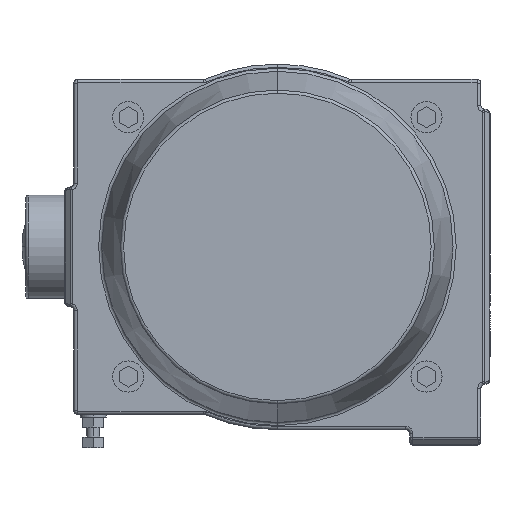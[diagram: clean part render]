
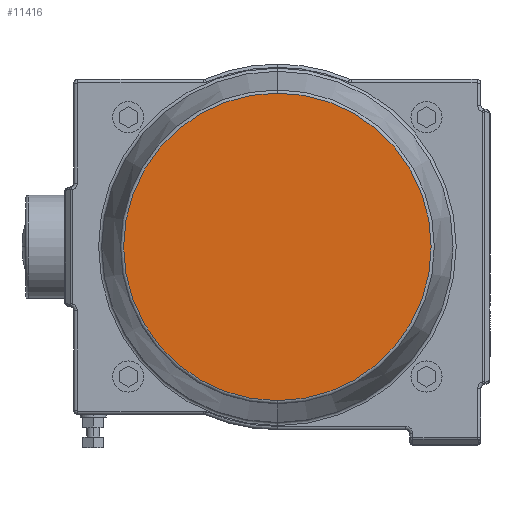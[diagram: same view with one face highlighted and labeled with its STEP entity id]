
A CAD part, left-side view. The second image highlights one B-rep face of the part: STEP entity #11416.
In plain terms, the highlighted planar face has unit normal (-1, 0, 0).
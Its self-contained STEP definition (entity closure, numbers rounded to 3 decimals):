
#883 = CIRCLE ( 'NONE', #3228, 118.626 ) ;
#1899 = DIRECTION ( 'NONE',  ( -1., 0., 0. ) ) ;
#3228 = AXIS2_PLACEMENT_3D ( 'NONE', #14916, #1899, #14844 ) ;
#4159 = DIRECTION ( 'NONE',  ( 0., 0., 1. ) ) ;
#4601 = EDGE_LOOP ( 'NONE', ( #16830, #9811 ) ) ;
#4955 = EDGE_CURVE ( 'NONE', #9961, #12188, #883, .T. ) ;
#5109 = AXIS2_PLACEMENT_3D ( 'NONE', #7636, #12962, #7587 ) ;
#6566 = FACE_OUTER_BOUND ( 'NONE', #4601, .T. ) ;
#7587 = DIRECTION ( 'NONE',  ( 0., 0., 1. ) ) ;
#7636 = CARTESIAN_POINT ( 'NONE',  ( -360.5, 0., 0. ) ) ;
#7891 = DIRECTION ( 'NONE',  ( -1., 0., 0. ) ) ;
#9561 = CARTESIAN_POINT ( 'NONE',  ( -360.5, 0., -118.626 ) ) ;
#9811 = ORIENTED_EDGE ( 'NONE', *, *, #11973, .T. ) ;
#9961 = VERTEX_POINT ( 'NONE', #16514 ) ;
#11416 = ADVANCED_FACE ( 'NONE', ( #6566 ), #13245, .T. ) ;
#11973 = EDGE_CURVE ( 'NONE', #12188, #9961, #13228, .T. ) ;
#12008 = CARTESIAN_POINT ( 'NONE',  ( -360.5, 0., 0. ) ) ;
#12188 = VERTEX_POINT ( 'NONE', #9561 ) ;
#12962 = DIRECTION ( 'NONE',  ( -1., 0., 0. ) ) ;
#13228 = CIRCLE ( 'NONE', #5109, 118.626 ) ;
#13245 = PLANE ( 'NONE',  #16424 ) ;
#14844 = DIRECTION ( 'NONE',  ( 0., 0., 1. ) ) ;
#14916 = CARTESIAN_POINT ( 'NONE',  ( -360.5, 0., 0. ) ) ;
#16424 = AXIS2_PLACEMENT_3D ( 'NONE', #12008, #7891, #4159 ) ;
#16514 = CARTESIAN_POINT ( 'NONE',  ( -360.5, 0., 118.626 ) ) ;
#16830 = ORIENTED_EDGE ( 'NONE', *, *, #4955, .T. ) ;
